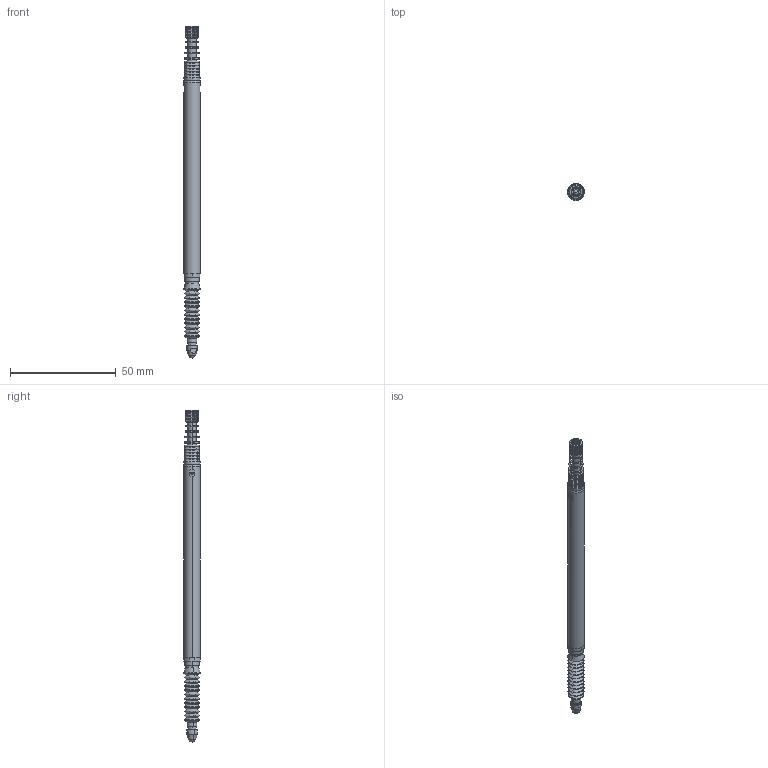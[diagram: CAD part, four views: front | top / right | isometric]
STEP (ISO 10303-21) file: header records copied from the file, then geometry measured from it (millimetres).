
FILE_DESCRIPTION (( 'STEP AP214' ), '1' );
FILE_NAME ('DP-15_exterior.STEP', '2015-10-07T05:40:06', ( 'ysgoodman' ), ( '' ), 'SwSTEP 2.0', 'SolidWorks 2014', '' );
FILE_SCHEMA (( 'AUTOMOTIVE_DESIGN' ));
Length unit declared in the file: millimetre
Products named in the file (1): DP-15_exterior
Bounding box: 8 x 8 x 156.81 mm (x, y, z)
Surface area: 4756 mm2 (no closed solid volume)
Topology: 0 solids, 32 shells, 225 faces, 490 edges, 272 vertices
Faces by surface type: torus 120, cone 63, cylinder 21, plane 19, sphere 2
Entity records: 8679 total; most frequent: DIRECTION 1302, CARTESIAN_POINT 1052, ORIENTED_EDGE 930, AXIS2_PLACEMENT_3D 599, EDGE_CURVE 485, CIRCLE 373, VERTEX_POINT 269, EDGE_LOOP 235
